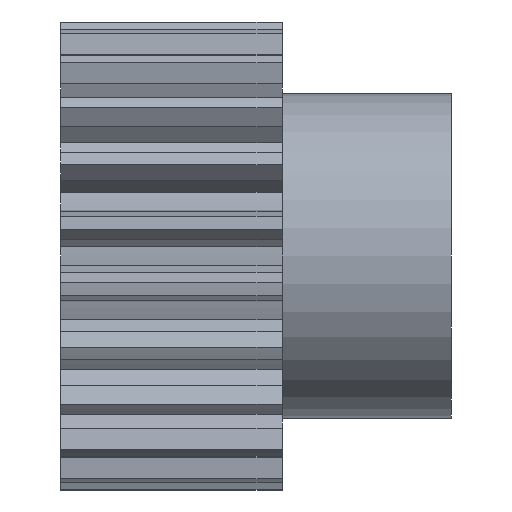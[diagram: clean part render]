
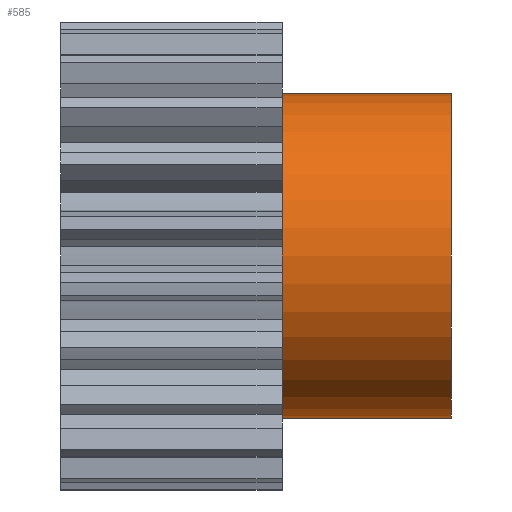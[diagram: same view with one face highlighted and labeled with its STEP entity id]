
A CAD part, front view. The second image highlights one B-rep face of the part: STEP entity #585.
In plain terms, the highlighted cylindrical face has radius 12.5 mm (diameter 25 mm), a partial arc.
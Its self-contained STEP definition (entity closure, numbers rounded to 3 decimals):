
#447 = EDGE_CURVE ( 'NONE', #646, #643, #2138, .T. ) ;
#524 = EDGE_CURVE ( 'NONE', #694, #704, #2196, .T. ) ;
#582 = ORIENTED_EDGE ( 'NONE', *, *, #524, .T. ) ;
#584 = ORIENTED_EDGE ( 'NONE', *, *, #447, .T. ) ;
#585 = ADVANCED_FACE ( 'NONE', ( #2200 ), #2191, .T. ) ;
#586 = ORIENTED_EDGE ( 'NONE', *, *, #638, .T. ) ;
#593 = ORIENTED_EDGE ( 'NONE', *, *, #642, .F. ) ;
#638 = EDGE_CURVE ( 'NONE', #643, #694, #2226, .T. ) ;
#642 = EDGE_CURVE ( 'NONE', #646, #704, #2216, .T. ) ;
#643 = VERTEX_POINT ( 'NONE', #2214 ) ;
#646 = VERTEX_POINT ( 'NONE', #2208 ) ;
#671 = EDGE_LOOP ( 'NONE', ( #593, #584, #586, #582 ) ) ;
#694 = VERTEX_POINT ( 'NONE', #2312 ) ;
#704 = VERTEX_POINT ( 'NONE', #2360 ) ;
#2132 = DIRECTION ( 'NONE',  ( 0., 0., 1. ) ) ;
#2133 = DIRECTION ( 'NONE',  ( -1., 0., 0. ) ) ;
#2134 = CARTESIAN_POINT ( 'NONE',  ( 21.5, 0., 0. ) ) ;
#2135 = AXIS2_PLACEMENT_3D ( 'NONE', #2134, #2133, #2132 ) ;
#2138 = CIRCLE ( 'NONE', #2135, 12.5 ) ;
#2188 = DIRECTION ( 'NONE',  ( 0., 0., 1. ) ) ;
#2189 = DIRECTION ( 'NONE',  ( -1., 0., 0. ) ) ;
#2190 = AXIS2_PLACEMENT_3D ( 'NONE', #2201, #2189, #2188 ) ;
#2191 = CYLINDRICAL_SURFACE ( 'NONE', #2190, 12.5 ) ;
#2192 = DIRECTION ( 'NONE',  ( 0., 0., 1. ) ) ;
#2193 = DIRECTION ( 'NONE',  ( 1., 0., 0. ) ) ;
#2194 = CARTESIAN_POINT ( 'NONE',  ( 8.5, 0., 0. ) ) ;
#2195 = AXIS2_PLACEMENT_3D ( 'NONE', #2194, #2193, #2192 ) ;
#2196 = CIRCLE ( 'NONE', #2195, 12.5 ) ;
#2200 = FACE_OUTER_BOUND ( 'NONE', #671, .T. ) ;
#2201 = CARTESIAN_POINT ( 'NONE',  ( 8.5, 0., 0. ) ) ;
#2208 = CARTESIAN_POINT ( 'NONE',  ( 21.5, 0., -12.5 ) ) ;
#2210 = DIRECTION ( 'NONE',  ( -1., 0., 0. ) ) ;
#2211 = VECTOR ( 'NONE', #2210, 1000. ) ;
#2212 = CARTESIAN_POINT ( 'NONE',  ( 8.5, 0., -12.5 ) ) ;
#2214 = CARTESIAN_POINT ( 'NONE',  ( 21.5, 0., 12.5 ) ) ;
#2216 = LINE ( 'NONE', #2212, #2211 ) ;
#2218 = DIRECTION ( 'NONE',  ( -1., 0., 0. ) ) ;
#2219 = VECTOR ( 'NONE', #2218, 1000. ) ;
#2225 = CARTESIAN_POINT ( 'NONE',  ( 8.5, 0., 12.5 ) ) ;
#2226 = LINE ( 'NONE', #2225, #2219 ) ;
#2312 = CARTESIAN_POINT ( 'NONE',  ( 8.5, 0., 12.5 ) ) ;
#2360 = CARTESIAN_POINT ( 'NONE',  ( 8.5, 0., -12.5 ) ) ;
